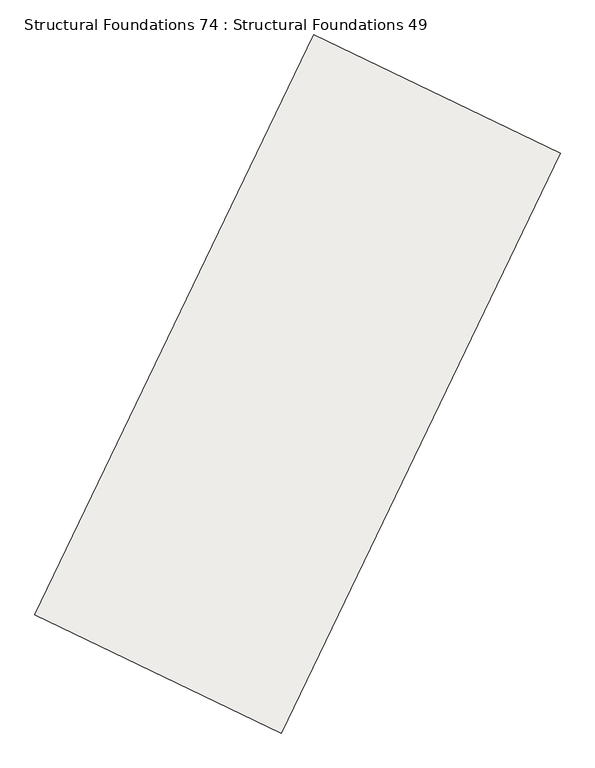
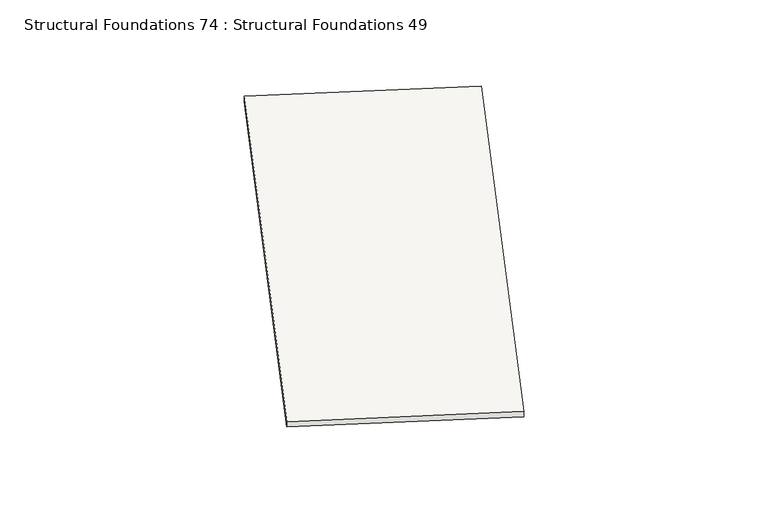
"""IFC4 building model written with IfcOpenShell, lengths in millimetres: slab geometry, Structural Foundations 74 : Structural Foundations 49."""

from ifc_helpers import new_model, si_unit, origin, place, context, project, spatial, faceted_brep, source, transform, mapped, element, save


def structural_foundations_74_structural_foundations_49_63173014(model_context):
    return source(origin(), model_context, "Body", "Brep", [
        faceted_brep([(423409.9571536, 359977.7704035, 646092.4193331), (420074.7551205, 361579.7580103, 646092.4193331), (420074.7551205, 361579.7580103, 645992.4193331), (423409.9571536, 359977.7704035, 645992.4193331), (427178.2629257, 367819.3183512, 646212.4193331), (427178.2629257, 367819.3183512, 646112.4193331), (423843.0608926, 369421.305958, 646112.4193331), (423843.0608926, 369421.305958, 646212.4193331)], [[[0, 1, 2, 3]], [[4, 5, 6, 7]], [[4, 7, 1, 0]], [[7, 6, 2, 1]], [[6, 5, 3, 2]], [[5, 4, 0, 3]]]),
    ])


if __name__ == "__main__":
    model = new_model("IFC4")
    model_context = context("Model", 3, world=origin())
    ifc_project = project(units=[si_unit("LENGTHUNIT", "METRE", prefix="MILLI")], contexts=[model_context])
    site = spatial("IfcSite", under=ifc_project)
    building = spatial("IfcBuilding", under=site)
    placement = place(None, origin())
    structural_foundations_74_structural_foundations_49_shape = structural_foundations_74_structural_foundations_49_63173014(model_context)
    element("IfcSlab", 1, ObjectType="Structural Foundations 74 : Structural Foundations 49", at=placement, inside=building, context=model_context, shape_type="MappedRepresentation", body=[
        mapped(structural_foundations_74_structural_foundations_49_shape, transform((0.0, 0.0, 0.0), x_axis=(1.0, 0.0, 0.0), y_axis=(0.0, 1.0, 0.0), z_axis=(0.0, 0.0, 1.0))),
    ])
    save(model, "model.ifc")
